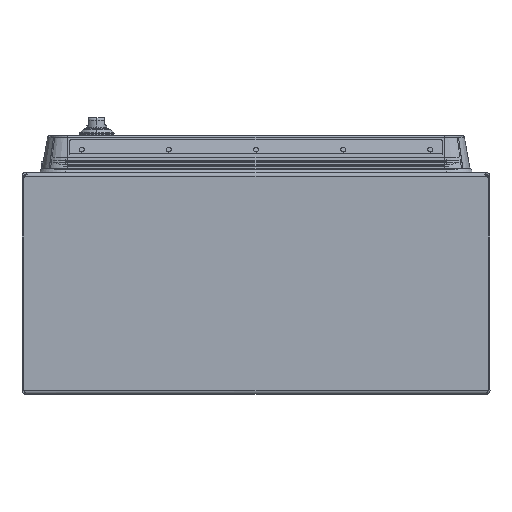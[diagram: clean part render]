
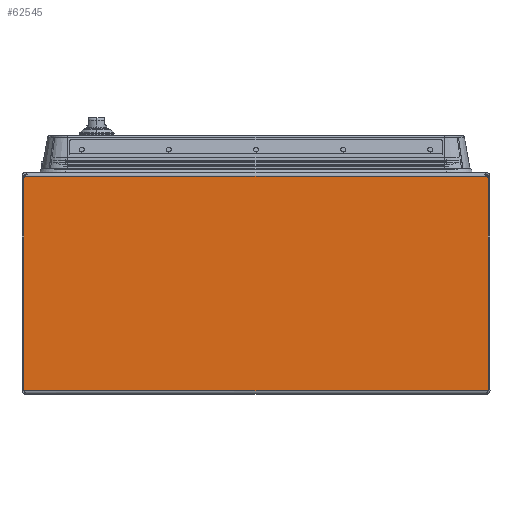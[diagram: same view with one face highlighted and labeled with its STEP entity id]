
A CAD part, front view. The second image highlights one B-rep face of the part: STEP entity #62545.
In plain terms, the highlighted planar face has unit normal (0, -1, 0).
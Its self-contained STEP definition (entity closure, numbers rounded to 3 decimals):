
#610 = CARTESIAN_POINT ( 'NONE',  ( -184.929, -225., 174.926 ) ) ;
#3988 = CARTESIAN_POINT ( 'NONE',  ( 188.429, -225., 174.926 ) ) ;
#7317 = CARTESIAN_POINT ( 'NONE',  ( -188.429, -225., 3. ) ) ;
#10994 = DIRECTION ( 'NONE',  ( 0., 0., -1. ) ) ;
#12614 = AXIS2_PLACEMENT_3D ( 'NONE', #164822, #161037, #33025 ) ;
#12751 = CARTESIAN_POINT ( 'NONE',  ( 187.75, -225., 177. ) ) ;
#13448 = EDGE_LOOP ( 'NONE', ( #163754, #172612, #154154, #151460, #173759, #49276, #109321, #41152 ) ) ;
#16558 = VERTEX_POINT ( 'NONE', #3988 ) ;
#27955 = CIRCLE ( 'NONE', #12614, 32. ) ;
#28041 = CARTESIAN_POINT ( 'NONE',  ( -187.791, -225., 176.942 ) ) ;
#33025 = DIRECTION ( 'NONE',  ( 0., 0., 1. ) ) ;
#36002 = CIRCLE ( 'NONE', #177310, 32. ) ;
#41079 = DIRECTION ( 'NONE',  ( 0., 0., -1. ) ) ;
#41152 = ORIENTED_EDGE ( 'NONE', *, *, #44909, .F. ) ;
#41745 = CARTESIAN_POINT ( 'NONE',  ( -188.429, -225., 174.926 ) ) ;
#43722 = DIRECTION ( 'NONE',  ( 0., 0., 1. ) ) ;
#44824 = DIRECTION ( 'NONE',  ( 0., 0., -1. ) ) ;
#44909 = EDGE_CURVE ( 'NONE', #178224, #149846, #85495, .T. ) ;
#46213 = EDGE_CURVE ( 'NONE', #99924, #168348, #27955, .T. ) ;
#46278 = DIRECTION ( 'NONE',  ( 0., 1., 0. ) ) ;
#48928 = AXIS2_PLACEMENT_3D ( 'NONE', #610, #132429, #44824 ) ;
#49030 = EDGE_CURVE ( 'NONE', #178224, #16558, #166204, .T. ) ;
#49276 = ORIENTED_EDGE ( 'NONE', *, *, #166856, .T. ) ;
#52093 = VERTEX_POINT ( 'NONE', #41745 ) ;
#62479 = VERTEX_POINT ( 'NONE', #28041 ) ;
#62545 = ADVANCED_FACE ( 'NONE', ( #132925 ), #118485, .F. ) ;
#65634 = EDGE_CURVE ( 'NONE', #149846, #52093, #158250, .T. ) ;
#66082 = CARTESIAN_POINT ( 'NONE',  ( 188.429, -225., 177. ) ) ;
#71070 = DIRECTION ( 'NONE',  ( -1., 0., 0. ) ) ;
#73749 = CIRCLE ( 'NONE', #89135, 3.5 ) ;
#78005 = VERTEX_POINT ( 'NONE', #173963 ) ;
#82185 = DIRECTION ( 'NONE',  ( 0., -1., 0. ) ) ;
#85495 = LINE ( 'NONE', #113449, #89085 ) ;
#86907 = CARTESIAN_POINT ( 'NONE',  ( 0., -225., 177. ) ) ;
#89085 = VECTOR ( 'NONE', #71070, 1000. ) ;
#89135 = AXIS2_PLACEMENT_3D ( 'NONE', #112030, #82185, #10994 ) ;
#93324 = EDGE_CURVE ( 'NONE', #168348, #78005, #131198, .T. ) ;
#98830 = CARTESIAN_POINT ( 'NONE',  ( -161.629, -225., 158.514 ) ) ;
#99764 = DIRECTION ( 'NONE',  ( 0., -1., 0. ) ) ;
#99924 = VERTEX_POINT ( 'NONE', #140242 ) ;
#101108 = CIRCLE ( 'NONE', #48928, 3.5 ) ;
#109321 = ORIENTED_EDGE ( 'NONE', *, *, #65634, .F. ) ;
#112030 = CARTESIAN_POINT ( 'NONE',  ( 184.929, -225., 174.926 ) ) ;
#113449 = CARTESIAN_POINT ( 'NONE',  ( 0., -225., 3. ) ) ;
#118485 = PLANE ( 'NONE',  #149561 ) ;
#123881 = DIRECTION ( 'NONE',  ( 0., 0., 1. ) ) ;
#131198 = LINE ( 'NONE', #86907, #169630 ) ;
#131982 = DIRECTION ( 'NONE',  ( 0., 0., 1. ) ) ;
#132429 = DIRECTION ( 'NONE',  ( 0., -1., 0. ) ) ;
#132925 = FACE_OUTER_BOUND ( 'NONE', #13448, .T. ) ;
#135432 = CARTESIAN_POINT ( 'NONE',  ( 188.429, -225., 3. ) ) ;
#140242 = CARTESIAN_POINT ( 'NONE',  ( 187.791, -225., 176.942 ) ) ;
#143855 = CARTESIAN_POINT ( 'NONE',  ( -188.429, -225., 177. ) ) ;
#147515 = DIRECTION ( 'NONE',  ( -1., 0., 0. ) ) ;
#148513 = EDGE_CURVE ( 'NONE', #78005, #62479, #36002, .T. ) ;
#149561 = AXIS2_PLACEMENT_3D ( 'NONE', #165547, #46278, #131982 ) ;
#149846 = VERTEX_POINT ( 'NONE', #7317 ) ;
#151460 = ORIENTED_EDGE ( 'NONE', *, *, #93324, .T. ) ;
#151570 = EDGE_CURVE ( 'NONE', #16558, #99924, #73749, .T. ) ;
#152039 = VECTOR ( 'NONE', #43722, 1000. ) ;
#154154 = ORIENTED_EDGE ( 'NONE', *, *, #46213, .T. ) ;
#158250 = LINE ( 'NONE', #143855, #152039 ) ;
#161037 = DIRECTION ( 'NONE',  ( 0., -1., 0. ) ) ;
#163754 = ORIENTED_EDGE ( 'NONE', *, *, #49030, .T. ) ;
#164822 = CARTESIAN_POINT ( 'NONE',  ( 161.629, -225., 158.514 ) ) ;
#165547 = CARTESIAN_POINT ( 'NONE',  ( 0., -225., 177. ) ) ;
#166204 = LINE ( 'NONE', #66082, #172546 ) ;
#166856 = EDGE_CURVE ( 'NONE', #62479, #52093, #101108, .T. ) ;
#168348 = VERTEX_POINT ( 'NONE', #12751 ) ;
#169630 = VECTOR ( 'NONE', #147515, 1000. ) ;
#172546 = VECTOR ( 'NONE', #123881, 1000. ) ;
#172612 = ORIENTED_EDGE ( 'NONE', *, *, #151570, .T. ) ;
#173759 = ORIENTED_EDGE ( 'NONE', *, *, #148513, .T. ) ;
#173963 = CARTESIAN_POINT ( 'NONE',  ( -187.75, -225., 177. ) ) ;
#177310 = AXIS2_PLACEMENT_3D ( 'NONE', #98830, #99764, #41079 ) ;
#178224 = VERTEX_POINT ( 'NONE', #135432 ) ;
